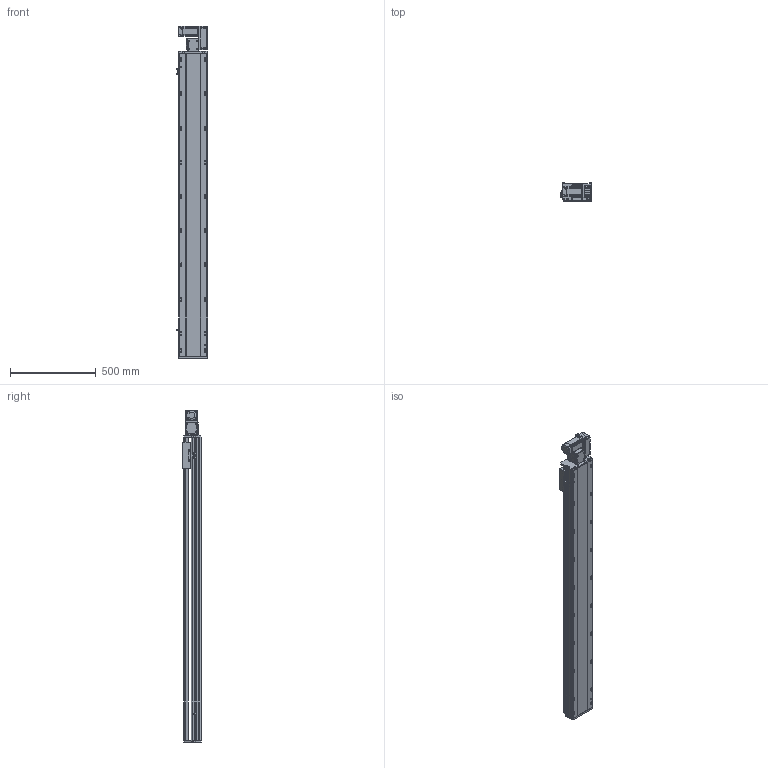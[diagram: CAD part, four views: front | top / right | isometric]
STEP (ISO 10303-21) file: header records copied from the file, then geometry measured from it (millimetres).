
FILE_DESCRIPTION (( 'STEP AP214' ), '1' );
FILE_NAME ('RTB17S-XX-1500-R-M40-C4.STEP', '2025-12-11T07:40:57', ( '' ), ( '' ), 'SwSTEP 2.0', 'SolidWorks 2018', '' );
FILE_SCHEMA (( 'AUTOMOTIVE_DESIGN' ));
Length unit declared in the file: millimetre
Products named in the file (14): RTB17S-XX-1500-R-M40-C4; RTB17S-L-007奻裔^RTB17S-XX-XX-R-M40-C4; OMRON EE-SX672 传感器^RTB17S-XX-XX-R-M40-C4; 400W侜督萇儂^RTB17S-XX-XX-R-M40-C4; RTB17S-R-々湍釱蚾饜-400W^RTB17S-XX-XX-R-M40-C4; RTB14-L-005P--轴承塑胶压盖^RTB17S-R-皮带座装配-400W_RTB17S-XX-XX-R-M40-C4; RTH13-BL-012覜茼え俋离^RTB17S-XX-XX-R-M40-C4; RTB14-L-018P^RTB17S-R-々湍釱蚾饜-400W_RTB17S-XX-XX-R-M40-C4; RTB17S-L-001耜醱啣^RTB17S-XX-XX-R-M40-C4; RTB14-L-017P^RTB17S-R-々湍釱蚾饜-400W_RTB17S-XX-XX-R-M40-C4; RTB14-L-008-M20--萇儂啣^RTB17S-R-々湍釱蚾饜-400W_RTB17S-XX-XX-R-M40-C4; RTB17-R-011菁釱^RTB17S-XX-XX-R-M40-C4; RTB17S-L-014-T20--々湍釱^RTB17S-R-々湍釱蚾饜-400W_RTB17S-XX-XX-R-M40-C4; RTB17S-L-004佪裝蹟譫蟀諉釱^RTB17S-XX-XX-R-M40-C4
Assembly tree (16 placements, depth 3):
  RTB17S-XX-1500-R-M40-C4
    RTB17-R-011菁釱^RTB17S-XX-XX-R-M40-C4
    RTB17S-L-007奻裔^RTB17S-XX-XX-R-M40-C4
    OMRON EE-SX672 传感器^RTB17S-XX-XX-R-M40-C4  x3
    RTB17S-L-001耜醱啣^RTB17S-XX-XX-R-M40-C4
    400W侜督萇儂^RTB17S-XX-XX-R-M40-C4
    RTB17S-L-004佪裝蹟譫蟀諉釱^RTB17S-XX-XX-R-M40-C4
    RTH13-BL-012覜茼え俋离^RTB17S-XX-XX-R-M40-C4
    RTB17S-R-々湍釱蚾饜-400W^RTB17S-XX-XX-R-M40-C4
      RTB17S-L-014-T20--々湍釱^RTB17S-R-々湍釱蚾饜-400W_RTB17S-XX-XX-R-M40-C4
      RTB14-L-005P--轴承塑胶压盖^RTB17S-R-皮带座装配-400W_RTB17S-XX-XX-R-M40-C4
      RTB14-L-008-M20--萇儂啣^RTB17S-R-々湍釱蚾饜-400W_RTB17S-XX-XX-R-M40-C4
      RTB14-L-017P^RTB17S-R-々湍釱蚾饜-400W_RTB17S-XX-XX-R-M40-C4  x2
      RTB14-L-018P^RTB17S-R-々湍釱蚾饜-400W_RTB17S-XX-XX-R-M40-C4
Bounding box: 183.5 x 108 x 1941 mm (x, y, z)
Volume: 16449197.5 mm3; surface area: 1943609.8 mm2
Topology: 15 solids, 15 shells, 2253 faces, 6249 edges, 4077 vertices
Faces by surface type: plane 1074, cylinder 731, bspline 301, cone 139, torus 8
Entity records: 64937 total; most frequent: CARTESIAN_POINT 18254, ORIENTED_EDGE 9342, DIRECTION 8666, EDGE_CURVE 4671, VERTEX_POINT 3065, AXIS2_PLACEMENT_3D 2995, VECTOR 2676, LINE 2676
